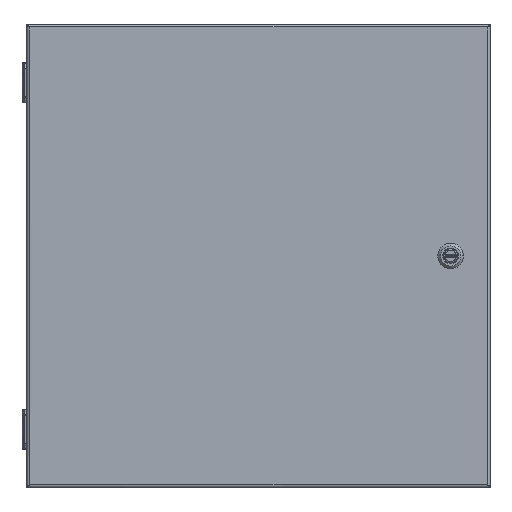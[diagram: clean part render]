
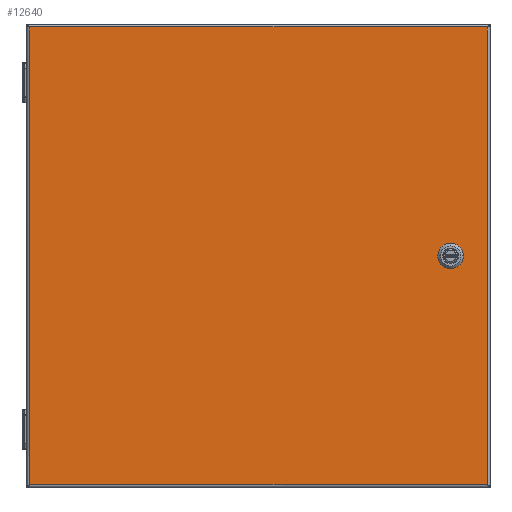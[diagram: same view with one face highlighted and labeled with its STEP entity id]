
A CAD part, top view. The second image highlights one B-rep face of the part: STEP entity #12640.
In plain terms, the highlighted planar face has unit normal (0, 0, 1) as drawn and (0, 1, 0) by its records, which use the part's own axes.
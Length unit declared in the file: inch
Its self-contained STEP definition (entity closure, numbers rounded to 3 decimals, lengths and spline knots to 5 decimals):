
#10083=DIRECTION('',(0.,0.,1.));
#10084=VECTOR('',#10083,20.151);
#10085=CARTESIAN_POINT('',(-10.0755,0.81,-10.0755));
#10086=LINE('',#10085,#10084);
#10173=DIRECTION('',(0.,0.,-1.));
#10174=VECTOR('',#10173,0.39715);
#10175=CARTESIAN_POINT('',(-0.396,0.81,-8.25592));
#10176=LINE('',#10175,#10174);
#10180=CARTESIAN_POINT('',(0.,0.81,-8.4545));
#10181=DIRECTION('',(0.,1.,0.));
#10182=DIRECTION('',(-0.894,0.,0.448));
#10183=AXIS2_PLACEMENT_3D('',#10180,#10181,#10182);
#10188=DIRECTION('',(-1.,0.,0.));
#10189=VECTOR('',#10188,0.39715);
#10190=CARTESIAN_POINT('',(0.19858,0.81,-8.0585));
#10191=LINE('',#10190,#10189);
#10195=CARTESIAN_POINT('',(0.,0.81,-8.4545));
#10196=DIRECTION('',(0.,1.,0.));
#10197=DIRECTION('',(0.448,0.,0.894));
#10198=AXIS2_PLACEMENT_3D('',#10195,#10196,#10197);
#10203=DIRECTION('',(0.,0.,1.));
#10204=VECTOR('',#10203,0.39715);
#10205=CARTESIAN_POINT('',(0.396,0.81,-8.65308));
#10206=LINE('',#10205,#10204);
#10210=CARTESIAN_POINT('',(0.,0.81,-8.4545));
#10211=DIRECTION('',(0.,1.,0.));
#10212=DIRECTION('',(0.894,0.,-0.448));
#10213=AXIS2_PLACEMENT_3D('',#10210,#10211,#10212);
#10218=DIRECTION('',(1.,0.,0.));
#10219=VECTOR('',#10218,0.39715);
#10220=CARTESIAN_POINT('',(-0.19858,0.81,-8.8505));
#10221=LINE('',#10220,#10219);
#10225=CARTESIAN_POINT('',(0.,0.81,-8.4545));
#10226=DIRECTION('',(0.,1.,0.));
#10227=DIRECTION('',(-0.448,0.,-0.894));
#10228=AXIS2_PLACEMENT_3D('',#10225,#10226,#10227);
#10699=DIRECTION('',(-1.,0.,0.));
#10700=VECTOR('',#10699,20.151);
#10701=CARTESIAN_POINT('',(10.0755,0.81,-10.0755));
#10702=LINE('',#10701,#10700);
#10785=DIRECTION('',(0.,0.,1.));
#10786=VECTOR('',#10785,20.151);
#10787=CARTESIAN_POINT('',(10.0755,0.81,-10.0755));
#10788=LINE('',#10787,#10786);
#11375=DIRECTION('',(-1.,0.,0.));
#11376=VECTOR('',#11375,20.151);
#11377=CARTESIAN_POINT('',(10.0755,0.81,10.0755));
#11378=LINE('',#11377,#11376);
#11970=CARTESIAN_POINT('',(10.0755,0.81,-10.0755));
#11971=CARTESIAN_POINT('',(-10.0755,0.81,-10.0755));
#11972=VERTEX_POINT('',#11970);
#11973=VERTEX_POINT('',#11971);
#11974=CARTESIAN_POINT('',(10.0755,0.81,10.0755));
#11975=CARTESIAN_POINT('',(-10.0755,0.81,10.0755));
#11976=VERTEX_POINT('',#11974);
#11977=VERTEX_POINT('',#11975);
#12090=CARTESIAN_POINT('',(-0.396,0.81,-8.25592));
#12091=CARTESIAN_POINT('',(-0.396,0.81,-8.65308));
#12092=VERTEX_POINT('',#12090);
#12093=VERTEX_POINT('',#12091);
#12094=CARTESIAN_POINT('',(-0.19858,0.81,-8.8505));
#12095=VERTEX_POINT('',#12094);
#12096=CARTESIAN_POINT('',(0.19858,0.81,-8.8505));
#12097=VERTEX_POINT('',#12096);
#12098=CARTESIAN_POINT('',(0.396,0.81,-8.65308));
#12099=VERTEX_POINT('',#12098);
#12100=CARTESIAN_POINT('',(0.396,0.81,-8.25592));
#12101=VERTEX_POINT('',#12100);
#12102=CARTESIAN_POINT('',(0.19858,0.81,-8.0585));
#12103=VERTEX_POINT('',#12102);
#12104=CARTESIAN_POINT('',(-0.19858,0.81,-8.0585));
#12105=VERTEX_POINT('',#12104);
#12608=CARTESIAN_POINT('',(10.1875,0.81,-10.1875));
#12609=DIRECTION('',(0.,1.,0.));
#12610=DIRECTION('',(-1.,0.,0.));
#12611=AXIS2_PLACEMENT_3D('',#12608,#12609,#12610);
#12612=PLANE('',#12611);
#12614=ORIENTED_EDGE('',*,*,#12613,.T.);
#12616=ORIENTED_EDGE('',*,*,#12615,.T.);
#12617=ORIENTED_EDGE('',*,*,#12598,.F.);
#12619=ORIENTED_EDGE('',*,*,#12618,.F.);
#12620=EDGE_LOOP('',(#12614,#12616,#12617,#12619));
#12621=FACE_OUTER_BOUND('',#12620,.F.);
#12623=ORIENTED_EDGE('',*,*,#12622,.F.);
#12625=ORIENTED_EDGE('',*,*,#12624,.T.);
#12627=ORIENTED_EDGE('',*,*,#12626,.F.);
#12629=ORIENTED_EDGE('',*,*,#12628,.T.);
#12631=ORIENTED_EDGE('',*,*,#12630,.F.);
#12633=ORIENTED_EDGE('',*,*,#12632,.T.);
#12635=ORIENTED_EDGE('',*,*,#12634,.F.);
#12637=ORIENTED_EDGE('',*,*,#12636,.T.);
#12638=EDGE_LOOP('',(#12623,#12625,#12627,#12629,#12631,#12633,#12635,#12637));
#12639=FACE_BOUND('',#12638,.F.);
#10184=CIRCLE('',#10183,0.443);
#10199=CIRCLE('',#10198,0.443);
#10214=CIRCLE('',#10213,0.443);
#10229=CIRCLE('',#10228,0.443);
#12598=EDGE_CURVE('',#11973,#11977,#10086,.T.);
#12613=EDGE_CURVE('',#11972,#11976,#10788,.T.);
#12615=EDGE_CURVE('',#11976,#11977,#11378,.T.);
#12618=EDGE_CURVE('',#11972,#11973,#10702,.T.);
#12622=EDGE_CURVE('',#12092,#12093,#10176,.T.);
#12624=EDGE_CURVE('',#12092,#12105,#10184,.T.);
#12626=EDGE_CURVE('',#12103,#12105,#10191,.T.);
#12628=EDGE_CURVE('',#12103,#12101,#10199,.T.);
#12630=EDGE_CURVE('',#12099,#12101,#10206,.T.);
#12632=EDGE_CURVE('',#12099,#12097,#10214,.T.);
#12634=EDGE_CURVE('',#12095,#12097,#10221,.T.);
#12636=EDGE_CURVE('',#12095,#12093,#10229,.T.);
#12640=ADVANCED_FACE('',(#12621,#12639),#12612,.T.);
